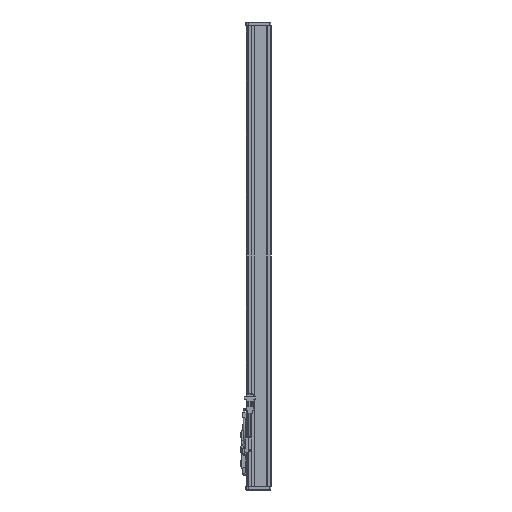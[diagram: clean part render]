
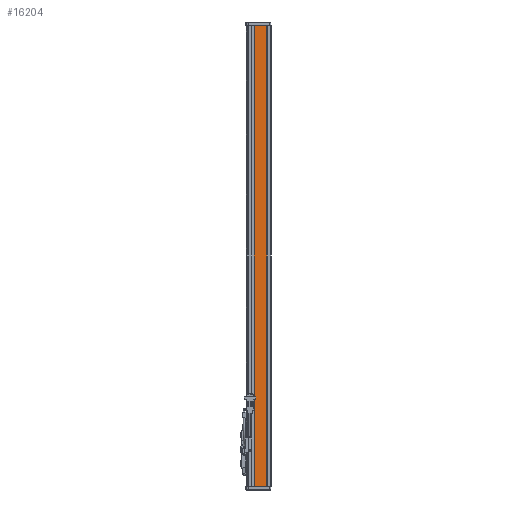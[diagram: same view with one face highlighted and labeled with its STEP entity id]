
A CAD part, left-side view. The second image highlights one B-rep face of the part: STEP entity #16204.
In plain terms, the highlighted planar face has unit normal (-1, 0, 0).
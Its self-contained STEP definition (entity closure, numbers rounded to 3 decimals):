
#144 = PLANE('',#145);
#145 = AXIS2_PLACEMENT_3D('',#146,#147,#148);
#146 = CARTESIAN_POINT('',(-36.5,59.6,1190.));
#147 = DIRECTION('',(0.,0.,1.));
#148 = DIRECTION('',(1.,0.,-0.));
#809 = PLANE('',#810);
#810 = AXIS2_PLACEMENT_3D('',#811,#812,#813);
#811 = CARTESIAN_POINT('',(-36.5,59.6,0.));
#812 = DIRECTION('',(0.,0.,1.));
#813 = DIRECTION('',(1.,0.,-0.));
#10239 = VERTEX_POINT('',#10240);
#10240 = CARTESIAN_POINT('',(-40.5,43.6,1190.));
#10254 = PLANE('',#10255);
#10255 = AXIS2_PLACEMENT_3D('',#10256,#10257,#10258);
#10256 = CARTESIAN_POINT('',(-40.,43.6,1190.));
#10257 = DIRECTION('',(0.,1.,0.));
#10258 = DIRECTION('',(0.,-0.,1.));
#10266 = EDGE_CURVE('',#10239,#10267,#10269,.T.);
#10267 = VERTEX_POINT('',#10268);
#10268 = CARTESIAN_POINT('',(-40.5,11.,1190.));
#10269 = SURFACE_CURVE('',#10270,(#10274,#10281),.PCURVE_S1.);
#10270 = LINE('',#10271,#10272);
#10271 = CARTESIAN_POINT('',(-40.5,19.,1190.));
#10272 = VECTOR('',#10273,1.);
#10273 = DIRECTION('',(0.,-1.,0.));
#10274 = PCURVE('',#144,#10275);
#10275 = DEFINITIONAL_REPRESENTATION('',(#10276),#10280);
#10276 = LINE('',#10277,#10278);
#10277 = CARTESIAN_POINT('',(-4.,-40.6));
#10278 = VECTOR('',#10279,1.);
#10279 = DIRECTION('',(0.,-1.));
#10280 = ( GEOMETRIC_REPRESENTATION_CONTEXT(2) 
PARAMETRIC_REPRESENTATION_CONTEXT() REPRESENTATION_CONTEXT('2D SPACE',''
  ) );
#10281 = PCURVE('',#10282,#10287);
#10282 = PLANE('',#10283);
#10283 = AXIS2_PLACEMENT_3D('',#10284,#10285,#10286);
#10284 = CARTESIAN_POINT('',(-40.5,19.,1190.));
#10285 = DIRECTION('',(1.,0.,-0.));
#10286 = DIRECTION('',(-0.,0.,-1.));
#10287 = DEFINITIONAL_REPRESENTATION('',(#10288),#10292);
#10288 = LINE('',#10289,#10290);
#10289 = CARTESIAN_POINT('',(0.,0.));
#10290 = VECTOR('',#10291,1.);
#10291 = DIRECTION('',(-0.,-1.));
#10292 = ( GEOMETRIC_REPRESENTATION_CONTEXT(2) 
PARAMETRIC_REPRESENTATION_CONTEXT() REPRESENTATION_CONTEXT('2D SPACE',''
  ) );
#10310 = PLANE('',#10311);
#10311 = AXIS2_PLACEMENT_3D('',#10312,#10313,#10314);
#10312 = CARTESIAN_POINT('',(-41.,10.5,1190.));
#10313 = DIRECTION('',(0.707,-0.707,0.));
#10314 = DIRECTION('',(0.707,0.707,0.));
#11656 = VERTEX_POINT('',#11657);
#11657 = CARTESIAN_POINT('',(-40.5,11.,0.));
#11678 = EDGE_CURVE('',#11679,#11656,#11681,.T.);
#11679 = VERTEX_POINT('',#11680);
#11680 = CARTESIAN_POINT('',(-40.5,43.6,0.));
#11681 = SURFACE_CURVE('',#11682,(#11686,#11693),.PCURVE_S1.);
#11682 = LINE('',#11683,#11684);
#11683 = CARTESIAN_POINT('',(-40.5,19.,0.));
#11684 = VECTOR('',#11685,1.);
#11685 = DIRECTION('',(0.,-1.,0.));
#11686 = PCURVE('',#809,#11687);
#11687 = DEFINITIONAL_REPRESENTATION('',(#11688),#11692);
#11688 = LINE('',#11689,#11690);
#11689 = CARTESIAN_POINT('',(-4.,-40.6));
#11690 = VECTOR('',#11691,1.);
#11691 = DIRECTION('',(0.,-1.));
#11692 = ( GEOMETRIC_REPRESENTATION_CONTEXT(2) 
PARAMETRIC_REPRESENTATION_CONTEXT() REPRESENTATION_CONTEXT('2D SPACE',''
  ) );
#11693 = PCURVE('',#10282,#11694);
#11694 = DEFINITIONAL_REPRESENTATION('',(#11695),#11699);
#11695 = LINE('',#11696,#11697);
#11696 = CARTESIAN_POINT('',(1190.,0.));
#11697 = VECTOR('',#11698,1.);
#11698 = DIRECTION('',(-0.,-1.));
#11699 = ( GEOMETRIC_REPRESENTATION_CONTEXT(2) 
PARAMETRIC_REPRESENTATION_CONTEXT() REPRESENTATION_CONTEXT('2D SPACE',''
  ) );
#14042 = EDGE_CURVE('',#10267,#11656,#14043,.T.);
#14043 = SURFACE_CURVE('',#14044,(#14048,#14055),.PCURVE_S1.);
#14044 = LINE('',#14045,#14046);
#14045 = CARTESIAN_POINT('',(-40.5,11.,1190.));
#14046 = VECTOR('',#14047,1.);
#14047 = DIRECTION('',(-0.,-0.,-1.));
#14048 = PCURVE('',#10310,#14049);
#14049 = DEFINITIONAL_REPRESENTATION('',(#14050),#14054);
#14050 = LINE('',#14051,#14052);
#14051 = CARTESIAN_POINT('',(0.707,0.));
#14052 = VECTOR('',#14053,1.);
#14053 = DIRECTION('',(0.,-1.));
#14054 = ( GEOMETRIC_REPRESENTATION_CONTEXT(2) 
PARAMETRIC_REPRESENTATION_CONTEXT() REPRESENTATION_CONTEXT('2D SPACE',''
  ) );
#14055 = PCURVE('',#10282,#14056);
#14056 = DEFINITIONAL_REPRESENTATION('',(#14057),#14061);
#14057 = LINE('',#14058,#14059);
#14058 = CARTESIAN_POINT('',(-0.,-8.));
#14059 = VECTOR('',#14060,1.);
#14060 = DIRECTION('',(1.,-0.));
#14061 = ( GEOMETRIC_REPRESENTATION_CONTEXT(2) 
PARAMETRIC_REPRESENTATION_CONTEXT() REPRESENTATION_CONTEXT('2D SPACE',''
  ) );
#16204 = ADVANCED_FACE('',(#16205),#10282,.F.);
#16205 = FACE_BOUND('',#16206,.T.);
#16206 = EDGE_LOOP('',(#16207,#16208,#16209,#16210));
#16207 = ORIENTED_EDGE('',*,*,#11678,.T.);
#16208 = ORIENTED_EDGE('',*,*,#14042,.F.);
#16209 = ORIENTED_EDGE('',*,*,#10266,.F.);
#16210 = ORIENTED_EDGE('',*,*,#16211,.F.);
#16211 = EDGE_CURVE('',#11679,#10239,#16212,.T.);
#16212 = SURFACE_CURVE('',#16213,(#16217,#16224),.PCURVE_S1.);
#16213 = LINE('',#16214,#16215);
#16214 = CARTESIAN_POINT('',(-40.5,43.6,1190.));
#16215 = VECTOR('',#16216,1.);
#16216 = DIRECTION('',(0.,0.,1.));
#16217 = PCURVE('',#10282,#16218);
#16218 = DEFINITIONAL_REPRESENTATION('',(#16219),#16223);
#16219 = LINE('',#16220,#16221);
#16220 = CARTESIAN_POINT('',(0.,24.6));
#16221 = VECTOR('',#16222,1.);
#16222 = DIRECTION('',(-1.,0.));
#16223 = ( GEOMETRIC_REPRESENTATION_CONTEXT(2) 
PARAMETRIC_REPRESENTATION_CONTEXT() REPRESENTATION_CONTEXT('2D SPACE',''
  ) );
#16224 = PCURVE('',#10254,#16225);
#16225 = DEFINITIONAL_REPRESENTATION('',(#16226),#16230);
#16226 = LINE('',#16227,#16228);
#16227 = CARTESIAN_POINT('',(0.,-0.5));
#16228 = VECTOR('',#16229,1.);
#16229 = DIRECTION('',(1.,0.));
#16230 = ( GEOMETRIC_REPRESENTATION_CONTEXT(2) 
PARAMETRIC_REPRESENTATION_CONTEXT() REPRESENTATION_CONTEXT('2D SPACE',''
  ) );
